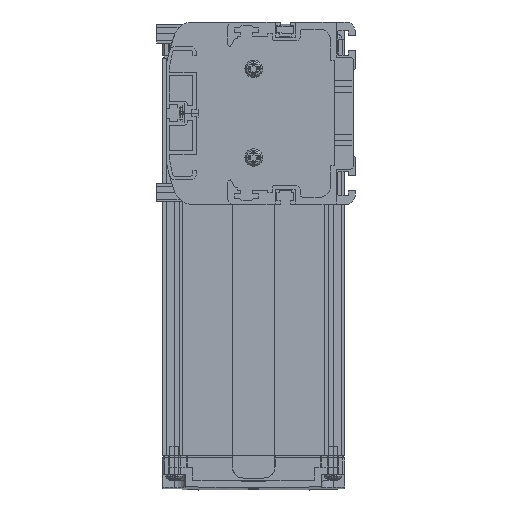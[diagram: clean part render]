
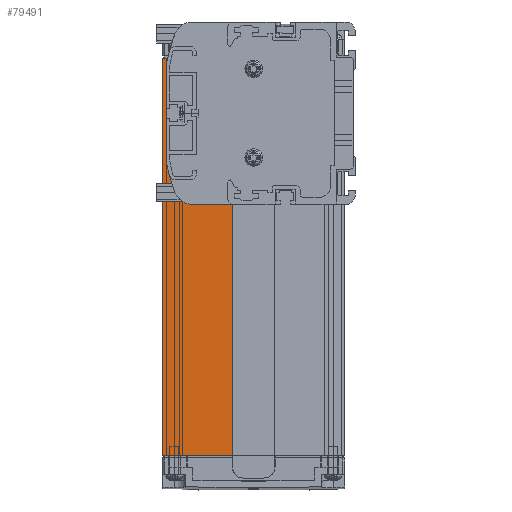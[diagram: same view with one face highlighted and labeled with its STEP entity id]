
A CAD part, left-side view. The second image highlights one B-rep face of the part: STEP entity #79491.
In plain terms, the highlighted planar face has unit normal (-1, 0, 0).
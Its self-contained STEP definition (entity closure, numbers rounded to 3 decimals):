
#77432=DIRECTION('',(0.,0.,1.));
#77433=VECTOR('',#77432,51.);
#77434=CARTESIAN_POINT('',(3.,70.5,-27.5));
#77435=LINE('',#77434,#77433);
#78081=DIRECTION('',(0.,0.,1.));
#78082=VECTOR('',#78081,170.);
#78083=CARTESIAN_POINT('',(3.,82.5,-146.5));
#78084=LINE('',#78083,#78082);
#78099=DIRECTION('',(0.,-1.,0.));
#78100=VECTOR('',#78099,29.9);
#78101=CARTESIAN_POINT('',(3.,82.5,-146.5));
#78102=LINE('',#78101,#78100);
#78103=DIRECTION('',(0.,1.,0.));
#78104=VECTOR('',#78103,12.);
#78105=CARTESIAN_POINT('',(3.,70.5,23.5));
#78106=LINE('',#78105,#78104);
#78107=DIRECTION('',(0.,1.,0.));
#78108=VECTOR('',#78107,17.9);
#78109=CARTESIAN_POINT('',(3.,52.6,-27.5));
#78110=LINE('',#78109,#78108);
#78217=DIRECTION('',(0.,0.,1.));
#78218=VECTOR('',#78217,119.);
#78219=CARTESIAN_POINT('',(3.,52.6,-146.5));
#78220=LINE('',#78219,#78218);
#78304=CARTESIAN_POINT('',(3.,70.5,23.5));
#78306=VERTEX_POINT('',#78304);
#78398=CARTESIAN_POINT('',(3.,82.5,23.5));
#78399=VERTEX_POINT('',#78398);
#78472=CARTESIAN_POINT('',(3.,82.5,-146.5));
#78473=VERTEX_POINT('',#78472);
#78474=CARTESIAN_POINT('',(3.,52.6,-146.5));
#78475=VERTEX_POINT('',#78474);
#78536=CARTESIAN_POINT('',(3.,70.5,-27.5));
#78537=VERTEX_POINT('',#78536);
#78538=CARTESIAN_POINT('',(3.,52.6,-27.5));
#78539=VERTEX_POINT('',#78538);
#79476=CARTESIAN_POINT('',(3.,67.55,-61.5));
#79477=DIRECTION('',(1.,0.,0.));
#79478=DIRECTION('',(0.,1.,0.));
#79479=AXIS2_PLACEMENT_3D('',#79476,#79477,#79478);
#79480=PLANE('',#79479);
#79481=ORIENTED_EDGE('',*,*,#78722,.F.);
#79483=ORIENTED_EDGE('',*,*,#79482,.F.);
#79485=ORIENTED_EDGE('',*,*,#79484,.F.);
#79486=ORIENTED_EDGE('',*,*,#79050,.F.);
#79487=ORIENTED_EDGE('',*,*,#79464,.T.);
#79488=ORIENTED_EDGE('',*,*,#78591,.F.);
#79489=EDGE_LOOP('',(#79481,#79483,#79485,#79486,#79487,#79488));
#79490=FACE_OUTER_BOUND('',#79489,.F.);
#79491=ADVANCED_FACE('',(#79490),#79480,.F.);
#78591=EDGE_CURVE('',#78306,#78399,#78106,.T.);
#78722=EDGE_CURVE('',#78537,#78306,#77435,.T.);
#79050=EDGE_CURVE('',#78473,#78475,#78102,.T.);
#79464=EDGE_CURVE('',#78473,#78399,#78084,.T.);
#79482=EDGE_CURVE('',#78539,#78537,#78110,.T.);
#79484=EDGE_CURVE('',#78475,#78539,#78220,.T.);
